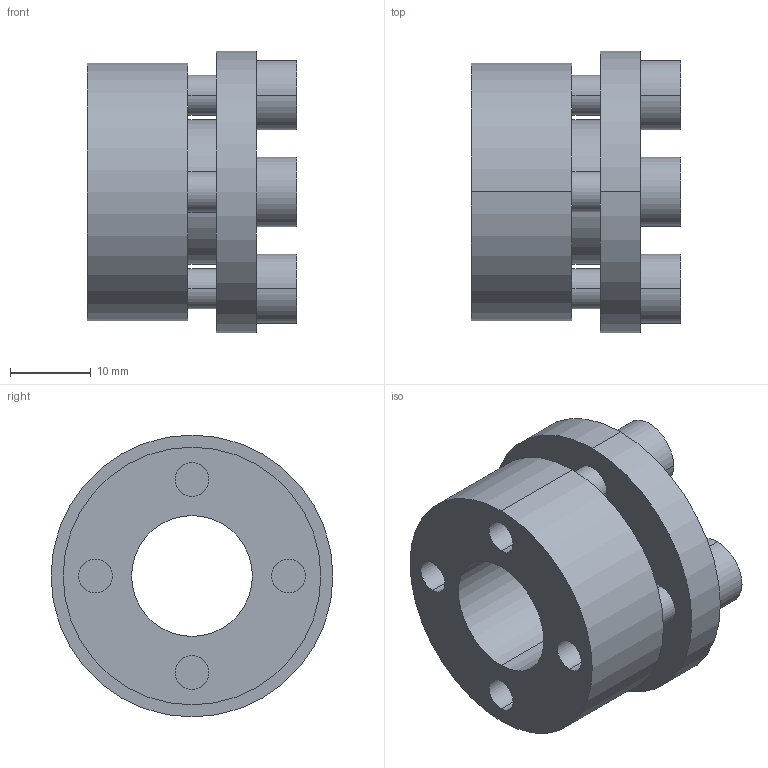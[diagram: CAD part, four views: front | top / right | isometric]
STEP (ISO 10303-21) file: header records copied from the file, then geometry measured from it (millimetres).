
FILE_DESCRIPTION (( 'STEP AP203' ), '1' );
FILE_NAME ('SES-15.step', '2009-09-29T16:37:58', ( 'USER' ), ( 'HOME' ), 'SwSTEP 2.0', 'SolidWorks 2007', '' );
FILE_SCHEMA (( 'CONFIG_CONTROL_DESIGN' ));
Length unit declared in the file: millimetre
Products named in the file (1): SES-15
Bounding box: 26 x 35 x 35 mm (x, y, z)
Volume: 13498.8 mm3; surface area: 8581.7 mm2
Topology: 5 solids, 5 shells, 84 faces, 192 edges, 128 vertices
Faces by surface type: plane 44, cylinder 40
Entity records: 2501 total; most frequent: DIRECTION 442, CARTESIAN_POINT 405, ORIENTED_EDGE 384, EDGE_CURVE 192, AXIS2_PLACEMENT_3D 165, VERTEX_POINT 128, EDGE_LOOP 112, VECTOR 112
